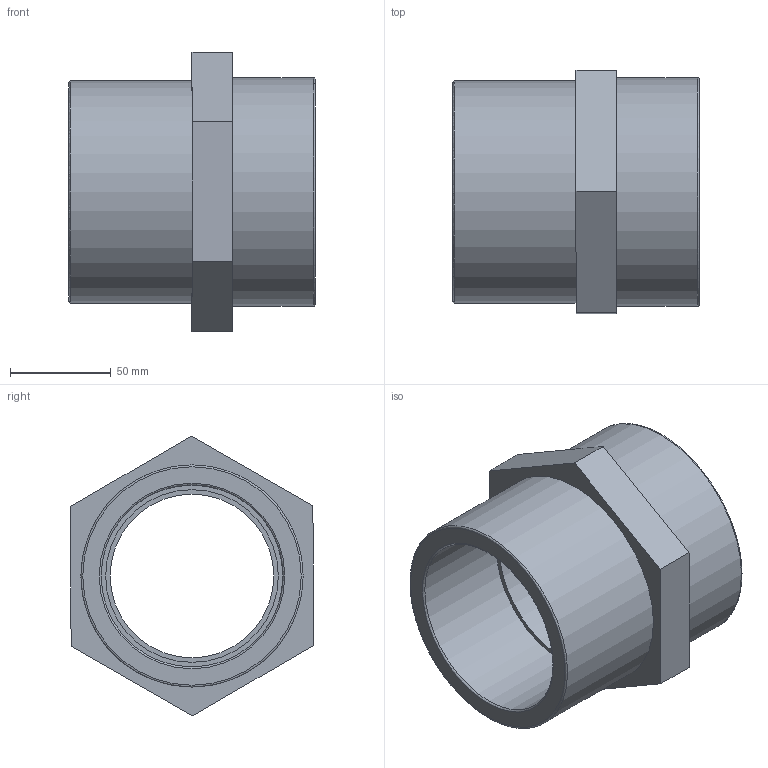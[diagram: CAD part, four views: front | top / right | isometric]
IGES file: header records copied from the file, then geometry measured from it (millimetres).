
Global section: file name: 050602110040.ipt; native system: Autodesk Inventor 2015; preprocessor: unknown; author: KIM; date: 20180927.115350; units: millimetre
Bounding box: 122 x 120.24 x 138.56 mm (x, y, z)
Volume: 537160.4 mm3; surface area: 90905.6 mm2
Topology: 1 solids, 1 shells, 21 faces, 55 edges, 40 vertices
Faces by surface type: plane 12, revolution 7, cylinder 2
Full cylindrical faces by diameter (mm): 110 x1, 113.03 x1
